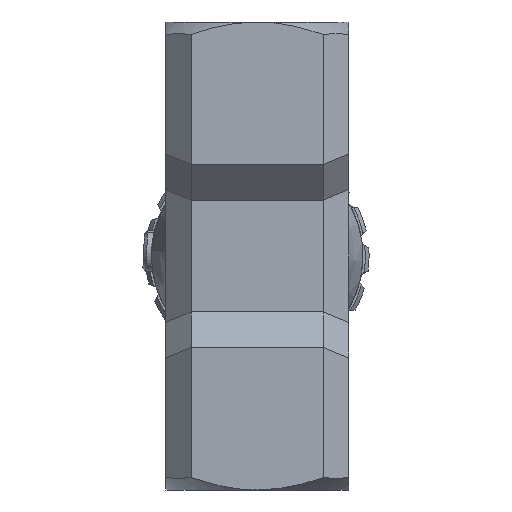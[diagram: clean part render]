
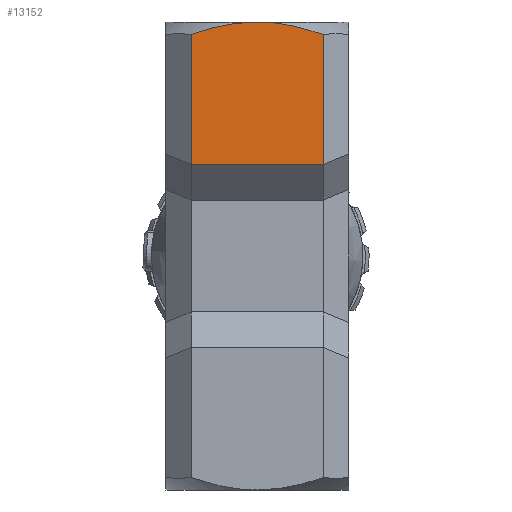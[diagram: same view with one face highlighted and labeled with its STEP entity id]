
A CAD part, front view. The second image highlights one B-rep face of the part: STEP entity #13152.
In plain terms, the highlighted planar face has unit normal (0, -1, 0).
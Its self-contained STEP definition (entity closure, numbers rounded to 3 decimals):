
#492 = CARTESIAN_POINT ( 'NONE',  ( -9., -9., 23. ) ) ;
#2859 = DIRECTION ( 'NONE',  ( 0., 0., 1. ) ) ;
#3059 = CARTESIAN_POINT ( 'NONE',  ( 5.447, -9., 22.142 ) ) ;
#3681 = LINE ( 'NONE', #7074, #9081 ) ;
#4571 = CARTESIAN_POINT ( 'NONE',  ( -1.112, -9., 23. ) ) ;
#5757 = EDGE_LOOP ( 'NONE', ( #24923, #14783, #23865, #28472, #25714 ) ) ;
#6208 = LINE ( 'NONE', #11361, #17001 ) ;
#6678 = DIRECTION ( 'NONE',  ( 0., 0., 1. ) ) ;
#6854 = VERTEX_POINT ( 'NONE', #12419 ) ;
#6867 = CARTESIAN_POINT ( 'NONE',  ( -4.375, -9., 22.448 ) ) ;
#7074 = CARTESIAN_POINT ( 'NONE',  ( -9., -9., 9. ) ) ;
#7364 = CARTESIAN_POINT ( 'NONE',  ( -6.5, -9., 9. ) ) ;
#8117 = AXIS2_PLACEMENT_3D ( 'NONE', #492, #16665, #2859 ) ;
#9081 = VECTOR ( 'NONE', #11747, 1000. ) ;
#9199 = CARTESIAN_POINT ( 'NONE',  ( -6.5, -9., 21.787 ) ) ;
#9311 = DIRECTION ( 'NONE',  ( 0., 0., -1. ) ) ;
#10051 = CARTESIAN_POINT ( 'NONE',  ( 2.217, -9., 22.854 ) ) ;
#11361 = CARTESIAN_POINT ( 'NONE',  ( 6.5, -9., 23. ) ) ;
#11747 = DIRECTION ( 'NONE',  ( 1., 0., 0. ) ) ;
#11795 = CARTESIAN_POINT ( 'NONE',  ( 6.5, -9., 9. ) ) ;
#11925 = EDGE_CURVE ( 'NONE', #19120, #27344, #19741, .T. ) ;
#11959 = PLANE ( 'NONE',  #8117 ) ;
#12347 = CARTESIAN_POINT ( 'NONE',  ( 0.556, -9., 23. ) ) ;
#12419 = CARTESIAN_POINT ( 'NONE',  ( -6.5, -9., 21.787 ) ) ;
#13152 = ADVANCED_FACE ( 'NONE', ( #24256 ), #11959, .F. ) ;
#14006 = LINE ( 'NONE', #25314, #20063 ) ;
#14783 = ORIENTED_EDGE ( 'NONE', *, *, #11925, .T. ) ;
#16665 = DIRECTION ( 'NONE',  ( 0., 1., 0. ) ) ;
#17001 = VECTOR ( 'NONE', #6678, 1000. ) ;
#17090 = VERTEX_POINT ( 'NONE', #7364 ) ;
#18024 = EDGE_CURVE ( 'NONE', #28439, #19120, #6208, .T. ) ;
#18080 = EDGE_CURVE ( 'NONE', #17090, #28439, #3681, .T. ) ;
#18307 = CARTESIAN_POINT ( 'NONE',  ( 0., -9., 23. ) ) ;
#18566 = CARTESIAN_POINT ( 'NONE',  ( 6.5, -9., 21.787 ) ) ;
#19120 = VERTEX_POINT ( 'NONE', #18566 ) ;
#19741 = B_SPLINE_CURVE_WITH_KNOTS ( 'NONE', 3,
 ( #21392, #3059, #28233, #23699, #10051, #26055, #12347, #28334 ),
 .UNSPECIFIED., .F., .F.,
 ( 4, 2, 2, 4 ),
 ( 0.024, 0.028, 0.029, 0.031 ),
 .UNSPECIFIED. ) ;
#20015 = EDGE_CURVE ( 'NONE', #6854, #17090, #14006, .T. ) ;
#20063 = VECTOR ( 'NONE', #9311, 1000. ) ;
#20605 = CARTESIAN_POINT ( 'NONE',  ( -2.208, -9., 22.878 ) ) ;
#21392 = CARTESIAN_POINT ( 'NONE',  ( 6.5, -9., 21.787 ) ) ;
#22895 = CARTESIAN_POINT ( 'NONE',  ( -5.451, -9., 22.141 ) ) ;
#23699 = CARTESIAN_POINT ( 'NONE',  ( 2.762, -9., 22.769 ) ) ;
#23865 = ORIENTED_EDGE ( 'NONE', *, *, #29235, .T. ) ;
#24197 = B_SPLINE_CURVE_WITH_KNOTS ( 'NONE', 3,
 ( #18307, #4571, #20605, #6867, #22895, #9199 ),
 .UNSPECIFIED., .F., .F.,
 ( 4, 2, 4 ),
 ( 0.031, 0.034, 0.038 ),
 .UNSPECIFIED. ) ;
#24256 = FACE_OUTER_BOUND ( 'NONE', #5757, .T. ) ;
#24923 = ORIENTED_EDGE ( 'NONE', *, *, #18024, .T. ) ;
#25314 = CARTESIAN_POINT ( 'NONE',  ( -6.5, -9., 23. ) ) ;
#25714 = ORIENTED_EDGE ( 'NONE', *, *, #18080, .T. ) ;
#26055 = CARTESIAN_POINT ( 'NONE',  ( 1.115, -9., 22.97 ) ) ;
#26056 = CARTESIAN_POINT ( 'NONE',  ( 0., -9., 23. ) ) ;
#27344 = VERTEX_POINT ( 'NONE', #26056 ) ;
#28233 = CARTESIAN_POINT ( 'NONE',  ( 4.384, -9., 22.446 ) ) ;
#28334 = CARTESIAN_POINT ( 'NONE',  ( 0., -9., 23. ) ) ;
#28439 = VERTEX_POINT ( 'NONE', #11795 ) ;
#28472 = ORIENTED_EDGE ( 'NONE', *, *, #20015, .T. ) ;
#29235 = EDGE_CURVE ( 'NONE', #27344, #6854, #24197, .T. ) ;
